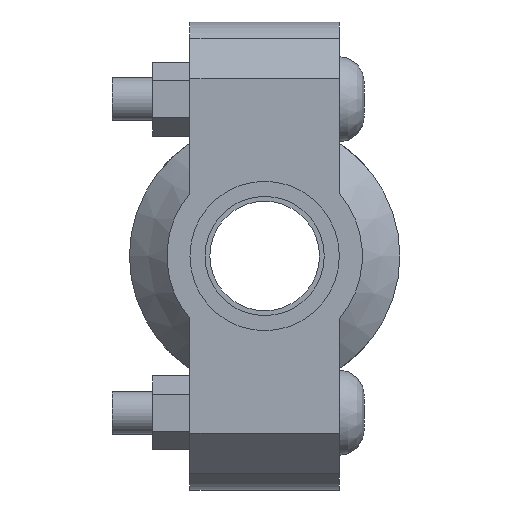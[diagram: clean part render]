
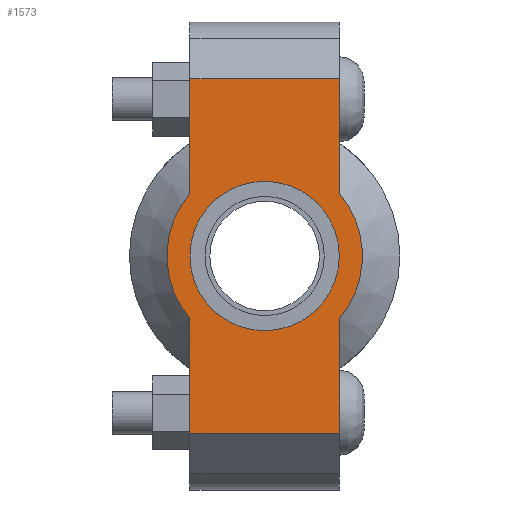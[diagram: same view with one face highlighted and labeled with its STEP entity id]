
A CAD part, left-side view. The second image highlights one B-rep face of the part: STEP entity #1573.
In plain terms, the highlighted planar face has unit normal (-1, 0, 0) as drawn and (0, 0, 1) by its records, which use the part's own axes.
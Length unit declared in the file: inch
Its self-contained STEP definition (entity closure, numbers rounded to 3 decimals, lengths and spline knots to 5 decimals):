
#128=LINE('',#2719,#225);
#143=LINE('',#2778,#240);
#151=LINE('',#2808,#248);
#153=LINE('',#2811,#250);
#154=LINE('',#2816,#251);
#155=LINE('',#2817,#252);
#225=VECTOR('',#2219,0.3937);
#240=VECTOR('',#2254,0.3937);
#248=VECTOR('',#2274,0.3937);
#250=VECTOR('',#2278,0.3937);
#251=VECTOR('',#2283,0.3937);
#252=VECTOR('',#2284,0.3937);
#316=FACE_BOUND('',#493,.T.);
#384=FACE_OUTER_BOUND('',#492,.T.);
#492=EDGE_LOOP('',(#1274,#1275,#1276,#1277,#1278,#1279,#1280,#1281));
#493=EDGE_LOOP('',(#1282));
#575=CIRCLE('',#1801,0.6575);
#599=CIRCLE('',#1853,0.86);
#600=CIRCLE('',#1854,0.86);
#671=VERTEX_POINT('',#2545);
#712=VERTEX_POINT('',#2716);
#713=VERTEX_POINT('',#2718);
#734=VERTEX_POINT('',#2773);
#735=VERTEX_POINT('',#2777);
#744=VERTEX_POINT('',#2803);
#745=VERTEX_POINT('',#2807);
#746=VERTEX_POINT('',#2813);
#747=VERTEX_POINT('',#2815);
#835=EDGE_CURVE('',#671,#671,#575,.T.);
#892=EDGE_CURVE('',#713,#712,#128,.T.);
#917=EDGE_CURVE('',#735,#734,#143,.T.);
#930=EDGE_CURVE('',#745,#744,#151,.T.);
#932=EDGE_CURVE('',#745,#712,#153,.T.);
#933=EDGE_CURVE('',#744,#746,#599,.T.);
#934=EDGE_CURVE('',#746,#747,#154,.T.);
#935=EDGE_CURVE('',#735,#747,#155,.T.);
#936=EDGE_CURVE('',#734,#713,#600,.T.);
#1274=ORIENTED_EDGE('',*,*,#932,.F.);
#1275=ORIENTED_EDGE('',*,*,#930,.T.);
#1276=ORIENTED_EDGE('',*,*,#933,.T.);
#1277=ORIENTED_EDGE('',*,*,#934,.T.);
#1278=ORIENTED_EDGE('',*,*,#935,.F.);
#1279=ORIENTED_EDGE('',*,*,#917,.T.);
#1280=ORIENTED_EDGE('',*,*,#936,.T.);
#1281=ORIENTED_EDGE('',*,*,#892,.T.);
#1282=ORIENTED_EDGE('',*,*,#835,.T.);
#1413=PLANE('',#1852);
#1573=ADVANCED_FACE('',(#384,#316),#1413,.T.);
#1801=AXIS2_PLACEMENT_3D('',#2547,#2109,#2110);
#1852=AXIS2_PLACEMENT_3D('',#2812,#2279,#2280);
#1853=AXIS2_PLACEMENT_3D('',#2814,#2281,#2282);
#1854=AXIS2_PLACEMENT_3D('',#2818,#2285,#2286);
#2109=DIRECTION('center_axis',(0.,0.,-1.));
#2110=DIRECTION('ref_axis',(-1.,0.,0.));
#2219=DIRECTION('',(-1.,0.,0.));
#2254=DIRECTION('',(-1.,0.,0.));
#2274=DIRECTION('',(1.,0.,0.));
#2278=DIRECTION('',(0.,1.,0.));
#2279=DIRECTION('center_axis',(0.,0.,1.));
#2280=DIRECTION('ref_axis',(1.,0.,0.));
#2281=DIRECTION('center_axis',(0.,0.,1.));
#2282=DIRECTION('ref_axis',(-1.,0.,0.));
#2283=DIRECTION('',(1.,0.,0.));
#2284=DIRECTION('',(0.,-1.,0.));
#2285=DIRECTION('center_axis',(0.,0.,1.));
#2286=DIRECTION('ref_axis',(-1.,0.,0.));
#2545=CARTESIAN_POINT('',(0.6575,0.,0.875));
#2547=CARTESIAN_POINT('Origin',(0.,0.,0.875));
#2716=CARTESIAN_POINT('',(-1.56,0.6575,0.875));
#2718=CARTESIAN_POINT('',(-0.55434,0.6575,0.875));
#2719=CARTESIAN_POINT('',(2.06,0.6575,0.875));
#2773=CARTESIAN_POINT('',(0.55434,0.6575,0.875));
#2777=CARTESIAN_POINT('',(1.56,0.6575,0.875));
#2778=CARTESIAN_POINT('',(2.06,0.6575,0.875));
#2803=CARTESIAN_POINT('',(-0.55434,-0.6575,0.875));
#2807=CARTESIAN_POINT('',(-1.56,-0.6575,0.875));
#2808=CARTESIAN_POINT('',(-2.06,-0.6575,0.875));
#2811=CARTESIAN_POINT('',(-1.56,0.32875,0.875));
#2812=CARTESIAN_POINT('Origin',(0.,0.,
0.875));
#2813=CARTESIAN_POINT('',(0.55434,-0.6575,0.875));
#2814=CARTESIAN_POINT('Origin',(0.,0.,0.875));
#2815=CARTESIAN_POINT('',(1.56,-0.6575,0.875));
#2816=CARTESIAN_POINT('',(-2.06,-0.6575,0.875));
#2817=CARTESIAN_POINT('',(1.56,-0.32875,0.875));
#2818=CARTESIAN_POINT('Origin',(0.,0.,0.875));
